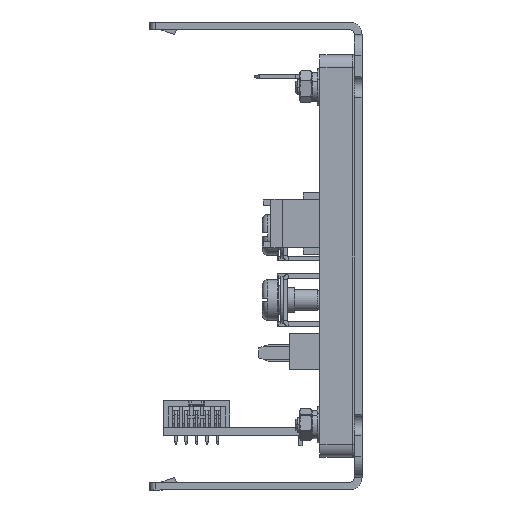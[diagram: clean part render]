
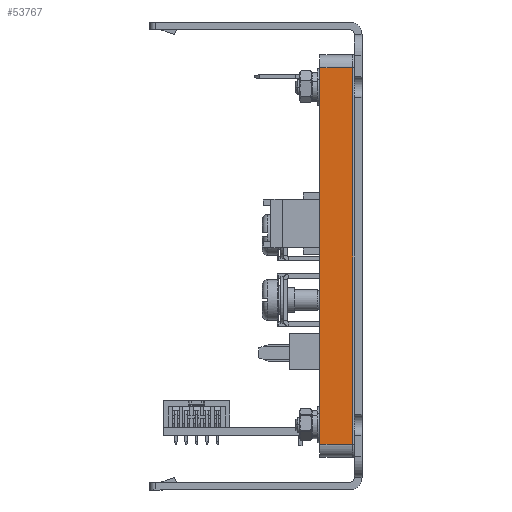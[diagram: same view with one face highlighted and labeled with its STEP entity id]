
A CAD part, left-side view. The second image highlights one B-rep face of the part: STEP entity #53767.
In plain terms, the highlighted planar face has unit normal (-1, 0, 0).
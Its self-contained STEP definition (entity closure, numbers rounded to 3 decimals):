
#1633 = AXIS2_PLACEMENT_3D ( 'NONE', #84461, #25596, #51848 ) ;
#2991 = ORIENTED_EDGE ( 'NONE', *, *, #52327, .T. ) ;
#3824 = ORIENTED_EDGE ( 'NONE', *, *, #65789, .T. ) ;
#4385 = LINE ( 'NONE', #43483, #74628 ) ;
#8191 = ORIENTED_EDGE ( 'NONE', *, *, #47459, .F. ) ;
#10070 = CARTESIAN_POINT ( 'NONE',  ( -63.8, 6.6, -38.6 ) ) ;
#11139 = VECTOR ( 'NONE', #39151, 1000. ) ;
#13532 = CARTESIAN_POINT ( 'NONE',  ( -63.8, 0.3, -36.1 ) ) ;
#14220 = LINE ( 'NONE', #71820, #11139 ) ;
#17016 = EDGE_CURVE ( 'NONE', #17911, #78213, #25837, .T. ) ;
#17911 = VERTEX_POINT ( 'NONE', #55723 ) ;
#25596 = DIRECTION ( 'NONE',  ( 1., 0., 0. ) ) ;
#25837 = LINE ( 'NONE', #33138, #80299 ) ;
#33138 = CARTESIAN_POINT ( 'NONE',  ( -63.8, 6.6, -36.1 ) ) ;
#38487 = PLANE ( 'NONE',  #1633 ) ;
#39151 = DIRECTION ( 'NONE',  ( 0., 1., 0. ) ) ;
#39168 = DIRECTION ( 'NONE',  ( 0., -1., 0. ) ) ;
#43483 = CARTESIAN_POINT ( 'NONE',  ( -63.8, 0.3, -38.6 ) ) ;
#47459 = EDGE_CURVE ( 'NONE', #17911, #65963, #74944, .T. ) ;
#51848 = DIRECTION ( 'NONE',  ( 0., 0., -1. ) ) ;
#52327 = EDGE_CURVE ( 'NONE', #67836, #65963, #14220, .T. ) ;
#52510 = CARTESIAN_POINT ( 'NONE',  ( -63.8, 0.3, 36.1 ) ) ;
#53767 = ADVANCED_FACE ( 'NONE', ( #57884 ), #38487, .F. ) ;
#55723 = CARTESIAN_POINT ( 'NONE',  ( -63.8, 6.6, -36.1 ) ) ;
#55915 = CARTESIAN_POINT ( 'NONE',  ( -63.8, 6.6, 36.1 ) ) ;
#57279 = DIRECTION ( 'NONE',  ( 0., 0., 1. ) ) ;
#57884 = FACE_OUTER_BOUND ( 'NONE', #62973, .T. ) ;
#62053 = DIRECTION ( 'NONE',  ( 0., 0., 1. ) ) ;
#62973 = EDGE_LOOP ( 'NONE', ( #75030, #3824, #2991, #8191 ) ) ;
#65789 = EDGE_CURVE ( 'NONE', #78213, #67836, #4385, .T. ) ;
#65963 = VERTEX_POINT ( 'NONE', #55915 ) ;
#66782 = VECTOR ( 'NONE', #62053, 1000. ) ;
#67836 = VERTEX_POINT ( 'NONE', #52510 ) ;
#71820 = CARTESIAN_POINT ( 'NONE',  ( -63.8, 6.6, 36.1 ) ) ;
#74628 = VECTOR ( 'NONE', #57279, 1000. ) ;
#74944 = LINE ( 'NONE', #10070, #66782 ) ;
#75030 = ORIENTED_EDGE ( 'NONE', *, *, #17016, .T. ) ;
#78213 = VERTEX_POINT ( 'NONE', #13532 ) ;
#80299 = VECTOR ( 'NONE', #39168, 1000. ) ;
#84461 = CARTESIAN_POINT ( 'NONE',  ( -63.8, 6.6, -38.6 ) ) ;
